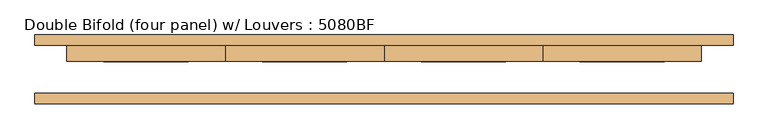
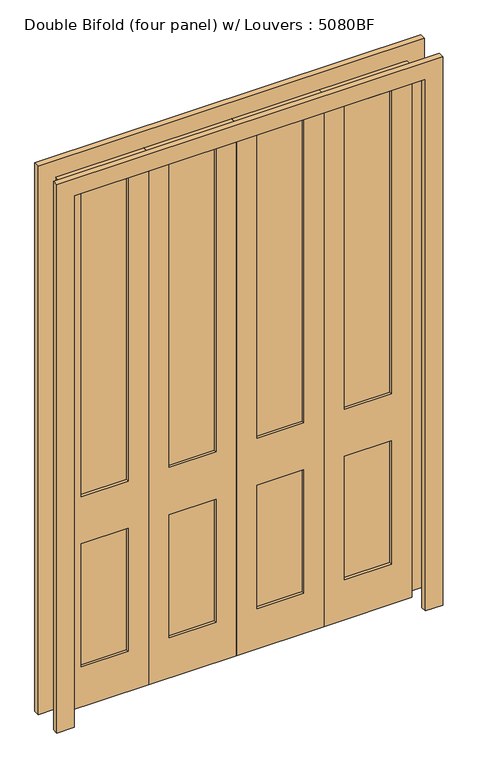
"""IFC4 building model written with IfcOpenShell, lengths in millimetres: door geometry, Double Bifold (four panel) w/ Louvers : 5080BF."""

import ifcopenshell
import ifcopenshell.guid

model = None  # the IFC model being written
_history = None  # IfcOwnerHistory: only IFC2X3 demands one
_inside = {}  # id of a spatial element -> (the spatial element, [elements in it])
_under = {}  # id of a project, library or spatial element -> (it, [spatial elements below it])
_declared = {}  # id of a project -> (the project, [libraries it declares])
_typed = {}  # id of a type object -> (the type object, [elements of that type])
_made_of = {}  # id of a material, layer set ... -> (it, [elements and type objects made of it])


def new_model(schema):
    """Start an empty IFC model of exactly this schema.

    Asked for "IFC4X3", IfcOpenShell would pick the latest addendum, in which some entities
    have other attributes; the version numbers below select the first issue.
    IFC2X3 requires an IfcOwnerHistory on every rooted entity: one is made here for all.
    """
    global model, _history
    if schema == "IFC4X3":
        model = ifcopenshell.file(schema_version=(4, 3, 0, 0))
    else:
        model = ifcopenshell.file(schema=schema)
    _inside.clear()
    _under.clear()
    _declared.clear()
    _typed.clear()
    _made_of.clear()
    _history = None
    if model.schema == "IFC2X3":
        org = make("IfcOrganization", Name="unknown")
        user = make(
            "IfcPersonAndOrganization",
            ThePerson=make("IfcPerson", FamilyName="unknown"),
            TheOrganization=org,
        )
        app = make(
            "IfcApplication",
            ApplicationDeveloper=org,
            Version="unknown",
            ApplicationFullName="unknown",
            ApplicationIdentifier="unknown",
        )
        _history = make(
            "IfcOwnerHistory",
            OwningUser=user,
            OwningApplication=app,
            ChangeAction="ADDED",
            CreationDate=0,
        )
    return model


def make(cls, **values):
    """One entity of the class cls with the attributes given. An attribute that is None is left unset."""
    return model.create_entity(
        cls, **{name: value for name, value in values.items() if value is not None}
    )


def rooted(cls, **values):
    """An entity with a GlobalId (a new one), such as an element, a storey or a relation."""
    return make(cls, GlobalId=ifcopenshell.guid.new(), OwnerHistory=_history, **values)


def si_unit(unit_type, name, prefix=None):
    """IfcSIUnit, for example si_unit("LENGTHUNIT", "METRE", prefix="MILLI")."""
    return make("IfcSIUnit", UnitType=unit_type, Prefix=prefix, Name=name)


def assignment(units):
    """IfcUnitAssignment: the units of a project."""
    return None if units is None else make("IfcUnitAssignment", Units=units)


def point(xyz):
    """IfcCartesianPoint."""
    return None if xyz is None else make("IfcCartesianPoint", Coordinates=xyz)


def direction(xyz):
    """IfcDirection."""
    return None if xyz is None else make("IfcDirection", DirectionRatios=xyz)


def frame(location, z_axis=None, x_axis=None):
    """IfcAxis2Placement3D, a coordinate frame: its origin and axes. An axis left out is left unset."""
    return make(
        "IfcAxis2Placement3D",
        Location=point(location),
        Axis=direction(z_axis),
        RefDirection=direction(x_axis),
    )


def origin():
    """The frame at (0, 0, 0) with its axes left unset."""
    return frame((0.0, 0.0, 0.0))


def place(relative_to, where):
    """IfcLocalPlacement: puts the frame where relative to a parent placement (None: the world)."""
    return make(
        "IfcLocalPlacement", PlacementRelTo=relative_to, RelativePlacement=where
    )


def context(
    kind, dimensions, precision=None, world=None, true_north=None, identifier=None
):
    """IfcGeometricRepresentationContext, for example the 3D "Model" context."""
    return make(
        "IfcGeometricRepresentationContext",
        ContextIdentifier=identifier,
        ContextType=kind,
        CoordinateSpaceDimension=dimensions,
        Precision=precision,
        WorldCoordinateSystem=world,
        TrueNorth=true_north,
    )


def project(units=None, contexts=None):
    """IfcProject with its units and contexts."""
    return rooted(
        "IfcProject",
        Name="project",
        RepresentationContexts=contexts,
        UnitsInContext=assignment(units),
    )


def spatial(cls, under=None, at=None, **own):
    """A site, building, storey or space (cls), placed at a placement, below another one or the project."""
    s = rooted(cls, ObjectPlacement=at, **own)
    if under is not None:
        _under.setdefault(under.id(), (under, []))[1].append(s)
    return s


def polyline(points):
    """IfcPolyline through the points."""
    return make("IfcPolyline", Points=[point(p) for p in points])


def outline(outer, holes=None, kind="AREA"):
    """IfcArbitraryClosedProfileDef: a profile drawn as a closed curve; with holes, ...WithVoids."""
    if holes is None:
        return make("IfcArbitraryClosedProfileDef", ProfileType=kind, OuterCurve=outer)
    return make(
        "IfcArbitraryProfileDefWithVoids",
        ProfileType=kind,
        OuterCurve=outer,
        InnerCurves=holes,
    )


def extrude(swept, where, along, depth):
    """IfcExtrudedAreaSolid: the profile swept, set in the frame where, extruded along a direction by depth."""
    return make(
        "IfcExtrudedAreaSolid",
        SweptArea=swept,
        Position=where,
        ExtrudedDirection=direction(along),
        Depth=depth,
    )


def shape(context_of_items, identifier, shape_type, items):
    """IfcShapeRepresentation: the items that make up one representation, for example the "Body"."""
    return make(
        "IfcShapeRepresentation",
        ContextOfItems=context_of_items,
        RepresentationIdentifier=identifier,
        RepresentationType=shape_type,
        Items=items,
    )


def source(mapping_origin, context_of_items, identifier, shape_type, items):
    """IfcRepresentationMap: a shape defined once, which mapped items show again and again."""
    return make(
        "IfcRepresentationMap",
        MappingOrigin=mapping_origin,
        MappedRepresentation=shape(context_of_items, identifier, shape_type, items),
    )


def transform(
    local_origin,
    x_axis=None,
    y_axis=None,
    z_axis=None,
    scale=None,
    scale2=None,
    scale3=None,
    uniform=True,
):
    """IfcCartesianTransformationOperator3D, or its non-uniform kind. x_axis, y_axis, z_axis: its Axis1, 2, 3."""
    if uniform:
        return make(
            "IfcCartesianTransformationOperator3D",
            Axis1=direction(x_axis),
            Axis2=direction(y_axis),
            LocalOrigin=point(local_origin),
            Scale=scale,
            Axis3=direction(z_axis),
        )
    return make(
        "IfcCartesianTransformationOperator3DnonUniform",
        Axis1=direction(x_axis),
        Axis2=direction(y_axis),
        LocalOrigin=point(local_origin),
        Scale=scale,
        Axis3=direction(z_axis),
        Scale2=scale2,
        Scale3=scale3,
    )


def mapped(mapping_source, mapping_target):
    """IfcMappedItem: shows the shape of a source again, moved by a transform."""
    return make(
        "IfcMappedItem", MappingSource=mapping_source, MappingTarget=mapping_target
    )


def made_of(thing, what):
    """Note that an element or type object is made of a material, layer set ...; save() writes the relation."""
    if what is not None:
        _made_of.setdefault(what.id(), (what, []))[1].append(thing)
    return thing


def element(
    cls,
    number,
    at=None,
    inside=None,
    cuts=None,
    type_object=None,
    material=None,
    context=None,
    identifier="Body",
    shape_type=None,
    held_by="IfcProductDefinitionShape",
    body=None,
    shapes=None,
    **own,
):
    """One element of the class cls, such as IfcWall. Its Tag is "e" and its number.

    at: its placement. inside: the storey or other place that contains it. cuts: it is an
    opening in that element (IfcRelVoidsElement). A single representation is given by context,
    identifier, shape_type and body (its items); several are given by shapes. held_by: the class
    of the entity that holds the representations. save() writes the other relations.
    """
    e = rooted(cls, Tag="e%d" % number, ObjectPlacement=at, **own)
    if body is not None:
        shapes = [shape(context, identifier, shape_type, body)]
    if shapes is not None:
        e.Representation = make(held_by, Representations=shapes)
    if inside is not None:
        _inside.setdefault(inside.id(), (inside, []))[1].append(e)
    if cuts is not None:
        rooted(
            "IfcRelVoidsElement", RelatingBuildingElement=cuts, RelatedOpeningElement=e
        )
    if type_object is not None:
        _typed.setdefault(type_object.id(), (type_object, []))[1].append(e)
    return made_of(e, material)


def aggregate(whole, parts):
    """IfcRelAggregates: a whole, such as a stair, and the parts it consists of."""
    return rooted("IfcRelAggregates", RelatingObject=whole, RelatedObjects=parts)


def save(model, path):
    """Write the relations noted so far, then the file.

    IfcRelAggregates (storeys below a building ...), IfcRelContainedInSpatialStructure (elements
    in a storey), IfcRelDefinesByType, IfcRelAssociatesMaterial and IfcRelDeclares: one each for
    every whole, place, type object, material and project.
    """
    for whole, parts in _under.values():
        aggregate(whole, parts)
    for where, things in _inside.values():
        rooted(
            "IfcRelContainedInSpatialStructure",
            RelatedElements=things,
            RelatingStructure=where,
        )
    for kind, things in _typed.values():
        rooted("IfcRelDefinesByType", RelatedObjects=things, RelatingType=kind)
    for what, things in _made_of.values():
        rooted("IfcRelAssociatesMaterial", RelatedObjects=things, RelatingMaterial=what)
    for by, libraries in _declared.values():
        rooted("IfcRelDeclares", RelatingContext=by, RelatedDefinitions=libraries)
    model.write(path)


def double_bifold_four_panel_w_louvers_5080bf_a2a4bedf(model_context):
    return source(origin(), model_context, "Body", "SweptSolid", [
        extrude(outline(polyline([(469.9, 44.45), (673.1, 44.45), (673.1, 31.75), (469.9, 31.75), (469.9, 44.45)])), frame((0.0, 0.0, 965.2), z_axis=(0.0, 0.0, 1.0), x_axis=(1.0, 0.0, 0.0)), (0.0, 0.0, 1.0), 1390.65),
        extrude(outline(polyline([(469.9, 44.45), (673.1, 44.45), (673.1, 31.75), (469.9, 31.75), (469.9, 44.45)])), frame((0.0, 0.0, 184.15), z_axis=(0.0, 0.0, 1.0), x_axis=(1.0, 0.0, 0.0)), (0.0, 0.0, 1.0), 565.15),
        extrude(outline(polyline([(88.9, 44.45), (292.1, 44.45), (292.1, 31.75), (88.9, 31.75), (88.9, 44.45)])), frame((0.0, 0.0, 965.2), z_axis=(0.0, 0.0, 1.0), x_axis=(1.0, 0.0, 0.0)), (0.0, 0.0, 1.0), 1390.65),
        extrude(outline(polyline([(88.9, 44.45), (292.1, 44.45), (292.1, 31.75), (88.9, 31.75), (88.9, 44.45)])), frame((0.0, 0.0, 184.15), z_axis=(0.0, 0.0, 1.0), x_axis=(1.0, 0.0, 0.0)), (0.0, 0.0, 1.0), 565.15),
        extrude(outline(polyline([(-292.1, 44.45), (-88.9, 44.45), (-88.9, 31.75), (-292.1, 31.75), (-292.1, 44.45)])), frame((0.0, 0.0, 184.15), z_axis=(0.0, 0.0, 1.0), x_axis=(1.0, 0.0, 0.0)), (0.0, 0.0, 1.0), 565.15),
        extrude(outline(polyline([(-292.1, 44.45), (-88.9, 44.45), (-88.9, 31.75), (-292.1, 31.75), (-292.1, 44.45)])), frame((0.0, 0.0, 965.2), z_axis=(0.0, 0.0, 1.0), x_axis=(1.0, 0.0, 0.0)), (0.0, 0.0, 1.0), 1390.65),
        extrude(outline(polyline([(-673.1, 44.45), (-469.9, 44.45), (-469.9, 31.75), (-673.1, 31.75), (-673.1, 44.45)])), frame((0.0, 0.0, 965.2), z_axis=(0.0, 0.0, 1.0), x_axis=(1.0, 0.0, 0.0)), (0.0, 0.0, 1.0), 1390.65),
        extrude(outline(polyline([(-673.1, 44.45), (-469.9, 44.45), (-469.9, 31.75), (-673.1, 31.75), (-673.1, 44.45)])), frame((0.0, 0.0, 184.15), z_axis=(0.0, 0.0, 1.0), x_axis=(1.0, 0.0, 0.0)), (0.0, 0.0, 1.0), 565.15),
        extrude(outline(polyline([(0.0, 838.2), (2514.6, 838.2), (2514.6, -838.2), (0.0, -838.2), (0.0, -762.0), (2438.4, -762.0), (2438.4, 762.0), (0.0, 762.0), (0.0, 838.2)])), frame((0.0, -82.55, 0.0), z_axis=(0.0, 1.0, 0.0), x_axis=(0.0, 0.0, 1.0)), (0.0, 0.0, 1.0), 25.4),
        extrude(outline(polyline([(0.0, 838.2), (2514.6, 838.2), (2514.6, -838.2), (0.0, -838.2), (0.0, -762.0), (2438.4, -762.0), (2438.4, 762.0), (0.0, 762.0), (0.0, 838.2)])), frame((0.0, 57.15, 0.0), z_axis=(0.0, 1.0, 0.0), x_axis=(0.0, 0.0, 1.0)), (0.0, 0.0, 1.0), 25.4),
        extrude(outline(polyline([(0.0, -762.0), (0.0, -381.0), (2438.4, -381.0), (2438.4, -762.0), (0.0, -762.0)]), holes=[polyline([(2355.85, -673.1), (2355.85, -469.9), (965.2, -469.9), (965.2, -673.1), (2355.85, -673.1)]), polyline([(749.3, -673.1), (749.3, -469.9), (184.15, -469.9), (184.15, -673.1), (749.3, -673.1)])]), frame((0.0, 19.05, 0.0), z_axis=(0.0, 1.0, 0.0), x_axis=(0.0, 0.0, 1.0)), (0.0, 0.0, 1.0), 38.1),
        extrude(outline(polyline([(0.0, -381.0), (0.0, 0.0), (2438.4, 0.0), (2438.4, -381.0), (0.0, -381.0)]), holes=[polyline([(2355.85, -292.1), (2355.85, -88.9), (965.2, -88.9), (965.2, -292.1), (2355.85, -292.1)]), polyline([(749.3, -292.1), (749.3, -88.9), (184.15, -88.9), (184.15, -292.1), (749.3, -292.1)])]), frame((0.0, 19.05, 0.0), z_axis=(0.0, 1.0, 0.0), x_axis=(0.0, 0.0, 1.0)), (0.0, 0.0, 1.0), 38.1),
        extrude(outline(polyline([(0.0, 0.0), (0.0, 381.0), (2438.4, 381.0), (2438.4, 0.0), (0.0, 0.0)]), holes=[polyline([(2355.85, 88.9), (2355.85, 292.1), (965.2, 292.1), (965.2, 88.9), (2355.85, 88.9)]), polyline([(749.3, 88.9), (749.3, 292.1), (184.15, 292.1), (184.15, 88.9), (749.3, 88.9)])]), frame((0.0, 19.05, 0.0), z_axis=(0.0, 1.0, 0.0), x_axis=(0.0, 0.0, 1.0)), (0.0, 0.0, 1.0), 38.1),
        extrude(outline(polyline([(0.0, 381.0), (0.0, 762.0), (2438.4, 762.0), (2438.4, 381.0), (0.0, 381.0)]), holes=[polyline([(2355.85, 469.9), (2355.85, 673.1), (965.2, 673.1), (965.2, 469.9), (2355.85, 469.9)]), polyline([(749.3, 469.9), (749.3, 673.1), (184.15, 673.1), (184.15, 469.9), (749.3, 469.9)])]), frame((0.0, 19.05, 0.0), z_axis=(0.0, 1.0, 0.0), x_axis=(0.0, 0.0, 1.0)), (0.0, 0.0, 1.0), 38.1),
    ])


if __name__ == "__main__":
    model = new_model("IFC4")
    model_context = context("Model", 3, world=origin())
    ifc_project = project(units=[si_unit("LENGTHUNIT", "METRE", prefix="MILLI")], contexts=[model_context])
    site = spatial("IfcSite", under=ifc_project)
    building = spatial("IfcBuilding", under=site)
    placement = place(None, origin())
    double_bifold_four_panel_w_louvers_5080bf_shape = double_bifold_four_panel_w_louvers_5080bf_a2a4bedf(model_context)
    element("IfcDoor", 1, ObjectType="Double Bifold (four panel) w/ Louvers : 5080BF", at=placement, inside=building, context=model_context, shape_type="MappedRepresentation", body=[
        mapped(double_bifold_four_panel_w_louvers_5080bf_shape, transform((0.0, 0.0, 0.0), x_axis=(1.0, 0.0, 0.0), y_axis=(0.0, 1.0, 0.0), z_axis=(0.0, 0.0, 1.0))),
    ])
    save(model, "model.ifc")
